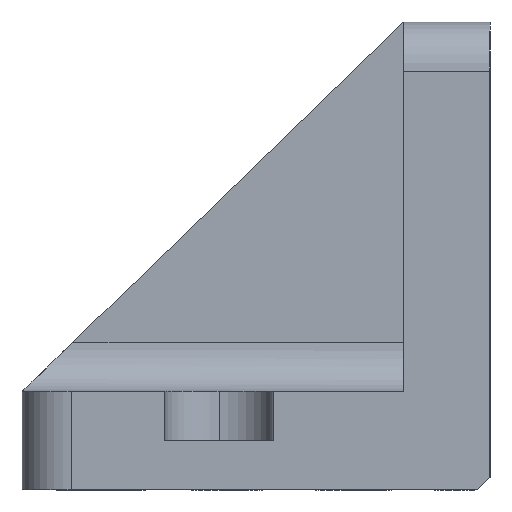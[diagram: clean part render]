
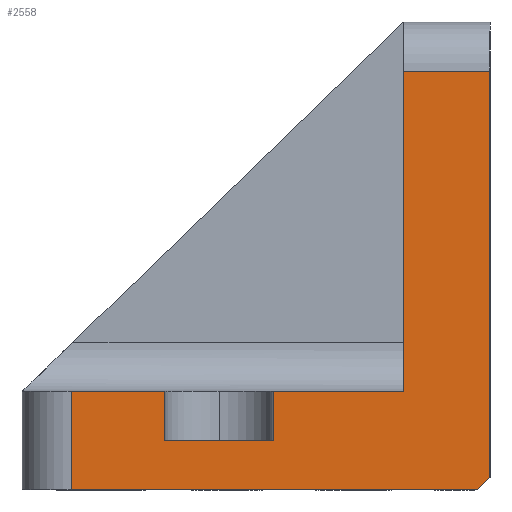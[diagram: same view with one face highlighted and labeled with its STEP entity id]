
A CAD part, left-side view. The second image highlights one B-rep face of the part: STEP entity #2558.
In plain terms, the highlighted planar face has unit normal (-1, 0, 0).
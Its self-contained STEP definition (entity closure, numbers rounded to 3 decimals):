
#204 = VERTEX_POINT ( 'NONE', #807 ) ;
#217 = EDGE_CURVE ( 'NONE', #204, #2838, #540, .T. ) ;
#221 = EDGE_CURVE ( 'NONE', #230, #277, #838, .T. ) ;
#229 = ORIENTED_EDGE ( 'NONE', *, *, #231, .T. ) ;
#230 = VERTEX_POINT ( 'NONE', #822 ) ;
#231 = EDGE_CURVE ( 'NONE', #230, #204, #817, .T. ) ;
#246 = ORIENTED_EDGE ( 'NONE', *, *, #256, .T. ) ;
#255 = ORIENTED_EDGE ( 'NONE', *, *, #2843, .F. ) ;
#256 = EDGE_CURVE ( 'NONE', #2666, #2550, #901, .T. ) ;
#259 = ORIENTED_EDGE ( 'NONE', *, *, #2544, .F. ) ;
#260 = ORIENTED_EDGE ( 'NONE', *, *, #261, .T. ) ;
#261 = EDGE_CURVE ( 'NONE', #2539, #263, #893, .T. ) ;
#262 = ORIENTED_EDGE ( 'NONE', *, *, #275, .T. ) ;
#263 = VERTEX_POINT ( 'NONE', #889 ) ;
#264 = ORIENTED_EDGE ( 'NONE', *, *, #217, .T. ) ;
#275 = EDGE_CURVE ( 'NONE', #263, #2561, #927, .T. ) ;
#276 = ORIENTED_EDGE ( 'NONE', *, *, #221, .F. ) ;
#277 = VERTEX_POINT ( 'NONE', #923 ) ;
#278 = EDGE_CURVE ( 'NONE', #2561, #277, #922, .T. ) ;
#539 = CARTESIAN_POINT ( 'NONE',  ( -10., -6., 19. ) ) ;
#540 = LINE ( 'NONE', #539, #841 ) ;
#807 = CARTESIAN_POINT ( 'NONE',  ( -10., -6., 17. ) ) ;
#814 = DIRECTION ( 'NONE',  ( 0., 1., 0. ) ) ;
#815 = VECTOR ( 'NONE', #814, 1000. ) ;
#816 = CARTESIAN_POINT ( 'NONE',  ( -10., -9.5, 17. ) ) ;
#817 = LINE ( 'NONE', #816, #815 ) ;
#822 = CARTESIAN_POINT ( 'NONE',  ( -10., -9.5, 17. ) ) ;
#835 = DIRECTION ( 'NONE',  ( 0., 0., -1. ) ) ;
#836 = VECTOR ( 'NONE', #835, 1000. ) ;
#837 = CARTESIAN_POINT ( 'NONE',  ( -10., -9.5, 4. ) ) ;
#838 = LINE ( 'NONE', #837, #836 ) ;
#840 = DIRECTION ( 'NONE',  ( 0., 0., -1. ) ) ;
#841 = VECTOR ( 'NONE', #840, 1000. ) ;
#889 = CARTESIAN_POINT ( 'NONE',  ( -10., 7.5, 0. ) ) ;
#890 = DIRECTION ( 'NONE',  ( 0., 0., -1. ) ) ;
#891 = VECTOR ( 'NONE', #890, 1000. ) ;
#892 = CARTESIAN_POINT ( 'NONE',  ( -10., 7.5, 4. ) ) ;
#893 = LINE ( 'NONE', #892, #891 ) ;
#898 = DIRECTION ( 'NONE',  ( 0., 0., -1. ) ) ;
#899 = VECTOR ( 'NONE', #898, 1000. ) ;
#900 = CARTESIAN_POINT ( 'NONE',  ( -10., -0.7, 4. ) ) ;
#901 = LINE ( 'NONE', #900, #899 ) ;
#919 = DIRECTION ( 'NONE',  ( 0., -0.707, 0.707 ) ) ;
#920 = VECTOR ( 'NONE', #919, 1000. ) ;
#921 = CARTESIAN_POINT ( 'NONE',  ( -10., -9.5, 0.5 ) ) ;
#922 = LINE ( 'NONE', #921, #920 ) ;
#923 = CARTESIAN_POINT ( 'NONE',  ( -10., -9.5, 0.5 ) ) ;
#924 = DIRECTION ( 'NONE',  ( 0., -1., 0. ) ) ;
#925 = VECTOR ( 'NONE', #924, 1000. ) ;
#926 = CARTESIAN_POINT ( 'NONE',  ( -10., -9.5, 0. ) ) ;
#927 = LINE ( 'NONE', #926, #925 ) ;
#1345 = CARTESIAN_POINT ( 'NONE',  ( -10., -9.5, 4. ) ) ;
#1346 = LINE ( 'NONE', #1345, #1407 ) ;
#1353 = CARTESIAN_POINT ( 'NONE',  ( -10., 7.5, 4. ) ) ;
#1362 = CARTESIAN_POINT ( 'NONE',  ( -10., 3.7, 4. ) ) ;
#1380 = FACE_OUTER_BOUND ( 'NONE', #2564, .T. ) ;
#1385 = DIRECTION ( 'NONE',  ( 0., 0., 1. ) ) ;
#1386 = VECTOR ( 'NONE', #1385, 1000. ) ;
#1387 = CARTESIAN_POINT ( 'NONE',  ( -10., 3.7, 4. ) ) ;
#1388 = LINE ( 'NONE', #1387, #1386 ) ;
#1389 = DIRECTION ( 'NONE',  ( 0., 1., 0. ) ) ;
#1390 = VECTOR ( 'NONE', #1389, 1000. ) ;
#1391 = CARTESIAN_POINT ( 'NONE',  ( -10., -9.5, 2. ) ) ;
#1392 = LINE ( 'NONE', #1391, #1390 ) ;
#1393 = CARTESIAN_POINT ( 'NONE',  ( -10., -0.7, 2. ) ) ;
#1394 = CARTESIAN_POINT ( 'NONE',  ( -10., 3.7, 2. ) ) ;
#1406 = DIRECTION ( 'NONE',  ( 0., -1., 0. ) ) ;
#1407 = VECTOR ( 'NONE', #1406, 1000. ) ;
#1428 = CARTESIAN_POINT ( 'NONE',  ( -10., -9., 0. ) ) ;
#1433 = DIRECTION ( 'NONE',  ( 0., 0., -1. ) ) ;
#1434 = DIRECTION ( 'NONE',  ( 1., 0., 0. ) ) ;
#1435 = CARTESIAN_POINT ( 'NONE',  ( -10., -9.5, 4. ) ) ;
#1436 = AXIS2_PLACEMENT_3D ( 'NONE', #1435, #1434, #1433 ) ;
#1437 = PLANE ( 'NONE',  #1436 ) ;
#1611 = CARTESIAN_POINT ( 'NONE',  ( -10., -0.7, 4. ) ) ;
#1914 = LINE ( 'NONE', #1976, #1975 ) ;
#1923 = CARTESIAN_POINT ( 'NONE',  ( -10., -6., 4. ) ) ;
#1974 = DIRECTION ( 'NONE',  ( 0., -1., 0. ) ) ;
#1975 = VECTOR ( 'NONE', #1974, 1000. ) ;
#1976 = CARTESIAN_POINT ( 'NONE',  ( -10., -9.5, 4. ) ) ;
#2531 = VERTEX_POINT ( 'NONE', #1362 ) ;
#2539 = VERTEX_POINT ( 'NONE', #1353 ) ;
#2544 = EDGE_CURVE ( 'NONE', #2539, #2531, #1346, .T. ) ;
#2549 = VERTEX_POINT ( 'NONE', #1394 ) ;
#2550 = VERTEX_POINT ( 'NONE', #1393 ) ;
#2551 = EDGE_CURVE ( 'NONE', #2550, #2549, #1392, .T. ) ;
#2552 = EDGE_CURVE ( 'NONE', #2549, #2531, #1388, .T. ) ;
#2554 = ORIENTED_EDGE ( 'NONE', *, *, #2552, .T. ) ;
#2558 = ADVANCED_FACE ( 'NONE', ( #1380 ), #1437, .F. ) ;
#2560 = ORIENTED_EDGE ( 'NONE', *, *, #2551, .T. ) ;
#2561 = VERTEX_POINT ( 'NONE', #1428 ) ;
#2562 = ORIENTED_EDGE ( 'NONE', *, *, #278, .T. ) ;
#2564 = EDGE_LOOP ( 'NONE', ( #2560, #2554, #259, #260, #262, #2562, #276, #229, #264, #255, #246 ) ) ;
#2666 = VERTEX_POINT ( 'NONE', #1611 ) ;
#2838 = VERTEX_POINT ( 'NONE', #1923 ) ;
#2843 = EDGE_CURVE ( 'NONE', #2666, #2838, #1914, .T. ) ;
